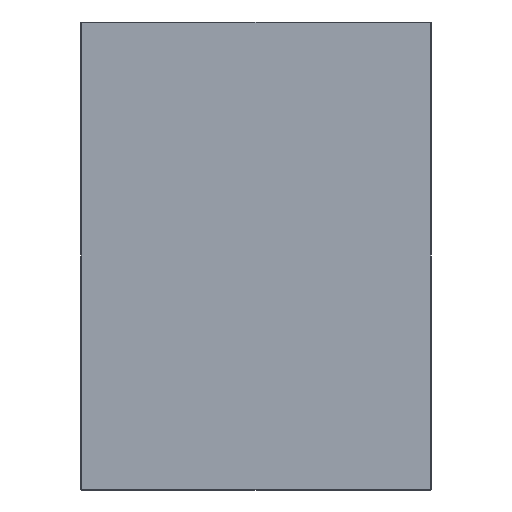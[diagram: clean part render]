
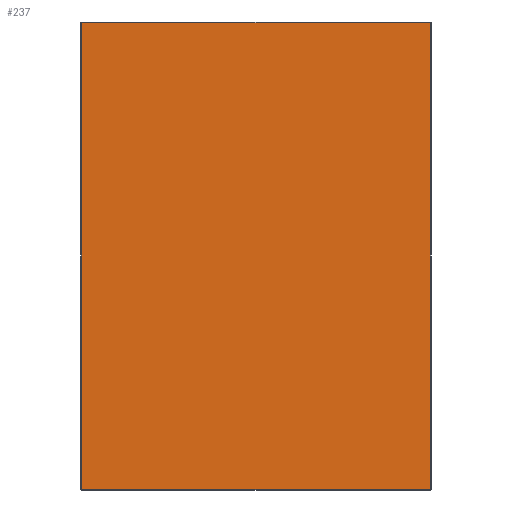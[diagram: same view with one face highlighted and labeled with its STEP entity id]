
A CAD part, front view. The second image highlights one B-rep face of the part: STEP entity #237.
In plain terms, the highlighted planar face has unit normal (0, -1, 0).
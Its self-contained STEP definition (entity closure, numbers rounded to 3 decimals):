
#14 = CARTESIAN_POINT ( 'NONE',  ( -222., 0., -298. ) ) ;
#15 = DIRECTION ( 'NONE',  ( 0., 0., -1. ) ) ;
#34 = DIRECTION ( 'NONE',  ( 0., -1., 0. ) ) ;
#36 = LINE ( 'NONE', #131, #483 ) ;
#37 = CARTESIAN_POINT ( 'NONE',  ( -223., 0., 297. ) ) ;
#43 = DIRECTION ( 'NONE',  ( -1., 0., 0. ) ) ;
#99 = DIRECTION ( 'NONE',  ( 0., 0., -1. ) ) ;
#110 = EDGE_CURVE ( 'NONE', #171, #220, #589, .T. ) ;
#124 = CARTESIAN_POINT ( 'NONE',  ( 222., 0., -297. ) ) ;
#125 = ORIENTED_EDGE ( 'NONE', *, *, #614, .T. ) ;
#131 = CARTESIAN_POINT ( 'NONE',  ( 223., 0., -297. ) ) ;
#140 = VERTEX_POINT ( 'NONE', #124 ) ;
#171 = VERTEX_POINT ( 'NONE', #504 ) ;
#175 = EDGE_CURVE ( 'NONE', #352, #171, #401, .T. ) ;
#188 = AXIS2_PLACEMENT_3D ( 'NONE', #594, #34, #99 ) ;
#204 = VECTOR ( 'NONE', #15, 1000. ) ;
#207 = ORIENTED_EDGE ( 'NONE', *, *, #246, .T. ) ;
#220 = VERTEX_POINT ( 'NONE', #499 ) ;
#228 = ORIENTED_EDGE ( 'NONE', *, *, #175, .T. ) ;
#237 = ADVANCED_FACE ( 'NONE', ( #400 ), #631, .T. ) ;
#246 = EDGE_CURVE ( 'NONE', #140, #352, #271, .T. ) ;
#254 = DIRECTION ( 'NONE',  ( 1., 0., 0. ) ) ;
#271 = LINE ( 'NONE', #451, #616 ) ;
#273 = ORIENTED_EDGE ( 'NONE', *, *, #110, .T. ) ;
#280 = VECTOR ( 'NONE', #43, 1000. ) ;
#293 = CARTESIAN_POINT ( 'NONE',  ( 222., 0., 297. ) ) ;
#338 = DIRECTION ( 'NONE',  ( 0., 0., 1. ) ) ;
#352 = VERTEX_POINT ( 'NONE', #293 ) ;
#400 = FACE_OUTER_BOUND ( 'NONE', #434, .T. ) ;
#401 = LINE ( 'NONE', #37, #280 ) ;
#434 = EDGE_LOOP ( 'NONE', ( #273, #125, #207, #228 ) ) ;
#451 = CARTESIAN_POINT ( 'NONE',  ( 222., 0., 298. ) ) ;
#483 = VECTOR ( 'NONE', #254, 1000. ) ;
#499 = CARTESIAN_POINT ( 'NONE',  ( -222., 0., -297. ) ) ;
#504 = CARTESIAN_POINT ( 'NONE',  ( -222., 0., 297. ) ) ;
#589 = LINE ( 'NONE', #14, #204 ) ;
#594 = CARTESIAN_POINT ( 'NONE',  ( 0., 0., 0. ) ) ;
#614 = EDGE_CURVE ( 'NONE', #220, #140, #36, .T. ) ;
#616 = VECTOR ( 'NONE', #338, 1000. ) ;
#631 = PLANE ( 'NONE',  #188 ) ;
